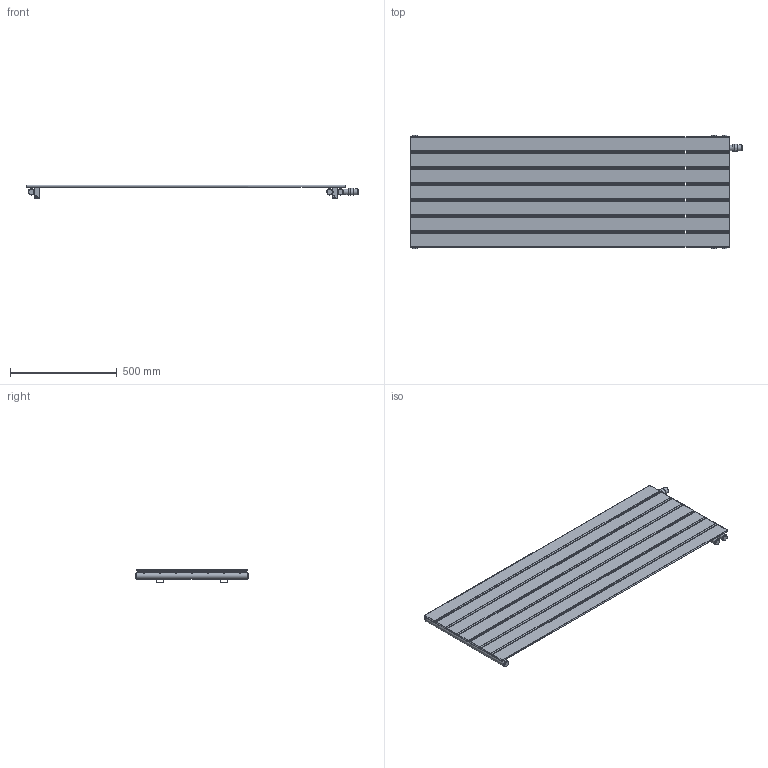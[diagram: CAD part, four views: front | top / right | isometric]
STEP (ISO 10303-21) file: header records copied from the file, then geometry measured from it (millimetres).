
FILE_DESCRIPTION(/* description */ (''),/* implementation_level */ '2;1');
FILE_NAME(/* name */ 'C:\Grzejniki\13DLUXRAD\pokojowe\NIAGARA\to\NIAGARA POZIOMA Z WKŁADKĄ TERMOSTATYCZNĄ 520x1500.iam.stp',/* time_stamp */ '2016-06-28T17:33:53+02:00',/* author */ ('m.szydziak'),/* organization */ (''),/* preprocessor_version */ 'ST-DEVELOPER v16.5',/* originating_system */ 'Autodesk Inventor 2017',/* authorisation */ '');
FILE_SCHEMA (('AUTOMOTIVE_DESIGN { 1 0 10303 214 3 1 1 }'));
Length unit declared in the file: millimetre
Products named in the file (10): NIAGARA POZIOMA Z WKŁADKĄ TERMOST
ATYCZNĄ 520x1500; NIAGARA 1500x520; 70x8x1,2x1504; michałek; ucho duze; ucho duze 2; poprzeczka 470; fi30x1,5x520; Głowica Termostatyczna; korek
Assembly tree (39 placements, depth 3):
  NIAGARA POZIOMA Z WKŁADKĄ TERMOST
ATYCZNĄ 520x1500
    NIAGARA 1500x520
      fi30x1,5x520  x2
      70x8x1,2x1504  x7
      michałek  x14
      ucho duze  x2
      ucho duze 2  x2
      poprzeczka 470  x3
      korek  x4
    fi30x1,5x520
    Głowica Termostatyczna
    korek  x2
Bounding box: 1556.85 x 532 x 62.5 mm (x, y, z)
Volume: 2239077.3 mm3; surface area: 3461234.1 mm2
Topology: 38 solids, 38 shells, 510 faces, 1135 edges, 701 vertices
Faces by surface type: plane 276, cylinder 172, sphere 56, torus 4, cone 2
Full cylindrical faces by diameter (mm): 8 x14, 9 x14, 10 x14, 11.5 x14, 18.631 x6, 24 x6, 25 x1, 27 x3, 28 x1, 30 x3
Entity records: 4089 total; most frequent: DIRECTION 724, CARTESIAN_POINT 698, ORIENTED_EDGE 548, AXIS2_PLACEMENT_3D 276, EDGE_CURVE 274, VERTEX_POINT 178, LINE 172, VECTOR 172
